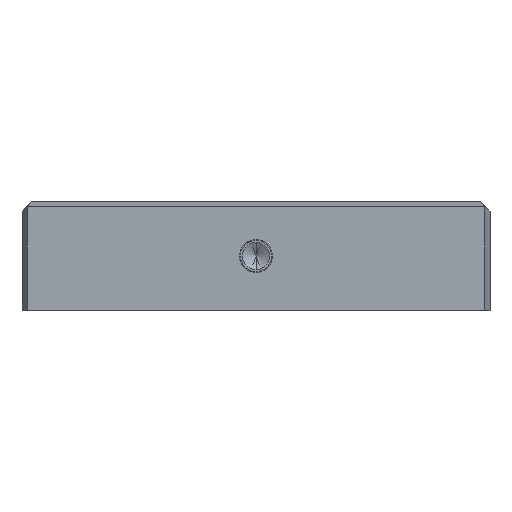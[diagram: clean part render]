
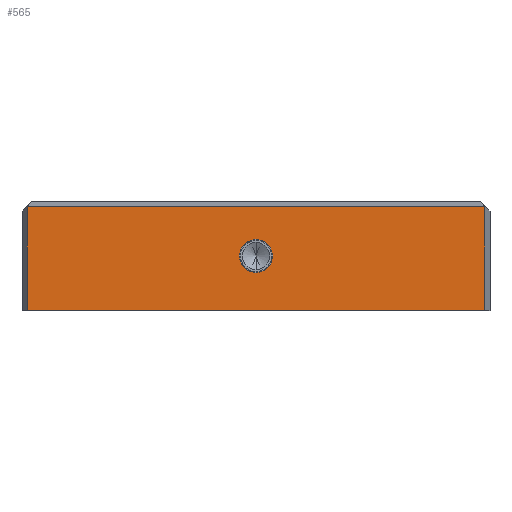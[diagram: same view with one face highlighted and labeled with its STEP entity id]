
A CAD part, front view. The second image highlights one B-rep face of the part: STEP entity #565.
In plain terms, the highlighted planar face has unit normal (0, -1, 0).
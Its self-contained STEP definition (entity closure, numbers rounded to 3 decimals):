
#457=CARTESIAN_POINT('Vertex',(0.,0.,-36.5)) ;
#461=CARTESIAN_POINT('Control Point',(8.5,0.,-28.)) ;
#462=CARTESIAN_POINT('Control Point',(8.5,0.,-30.67)) ;
#463=CARTESIAN_POINT('Control Point',(7.454,0.,-33.343)) ;
#464=CARTESIAN_POINT('Control Point',(5.343,0.,-35.454)) ;
#465=CARTESIAN_POINT('Control Point',(2.67,0.,-36.5)) ;
#466=CARTESIAN_POINT('Control Point',(0.,0.,-36.5)) ;
#467=CARTESIAN_POINT('Vertex',(8.5,0.,-28.)) ;
#470=CARTESIAN_POINT('Axis2P3D Location',(0.,0.,-28.)) ;
#474=CARTESIAN_POINT('Vertex',(0.,0.,-19.5)) ;
#496=CARTESIAN_POINT('Axis2P3D Location',(0.,0.,-28.)) ;
#500=CARTESIAN_POINT('Vertex',(-8.5,0.,-28.)) ;
#504=CARTESIAN_POINT('Control Point',(0.,0.,-36.5)) ;
#505=CARTESIAN_POINT('Control Point',(-2.67,0.,-36.5)) ;
#506=CARTESIAN_POINT('Control Point',(-5.343,0.,-35.454)) ;
#507=CARTESIAN_POINT('Control Point',(-7.454,0.,-33.343)) ;
#508=CARTESIAN_POINT('Control Point',(-8.5,0.,-30.67)) ;
#509=CARTESIAN_POINT('Control Point',(-8.5,0.,-28.)) ;
#520=CARTESIAN_POINT('Axis2P3D Location',(-117.321,0.,-56.)) ;
#525=CARTESIAN_POINT('Line Origine',(117.321,0.,-29.34)) ;
#529=CARTESIAN_POINT('Vertex',(117.321,0.,-56.)) ;
#531=CARTESIAN_POINT('Vertex',(117.321,0.,-2.679)) ;
#534=CARTESIAN_POINT('Line Origine',(0.,0.,-2.679)) ;
#538=CARTESIAN_POINT('Vertex',(-117.321,0.,-2.679)) ;
#541=CARTESIAN_POINT('Line Origine',(-117.321,0.,-29.34)) ;
#545=CARTESIAN_POINT('Vertex',(-117.321,0.,-56.)) ;
#548=CARTESIAN_POINT('Line Origine',(0.,0.,-56.)) ;
#471=DIRECTION('Axis2P3D Direction',(0.,-1.,0.)) ;
#497=DIRECTION('Axis2P3D Direction',(0.,-1.,0.)) ;
#521=DIRECTION('Axis2P3D Direction',(0.,-1.,0.)) ;
#522=DIRECTION('Axis2P3D XDirection',(0.,0.,-1.)) ;
#526=DIRECTION('Vector Direction',(0.,0.,1.)) ;
#535=DIRECTION('Vector Direction',(-1.,0.,0.)) ;
#542=DIRECTION('Vector Direction',(0.,0.,1.)) ;
#549=DIRECTION('Vector Direction',(1.,0.,0.)) ;
#472=AXIS2_PLACEMENT_3D('Circle Axis2P3D',#470,#471,$) ;
#498=AXIS2_PLACEMENT_3D('Circle Axis2P3D',#496,#497,$) ;
#523=AXIS2_PLACEMENT_3D('Plane Axis2P3D',#520,#521,#522) ;
#554=ORIENTED_EDGE('',*,*,#533,.T.) ;
#555=ORIENTED_EDGE('',*,*,#540,.T.) ;
#556=ORIENTED_EDGE('',*,*,#547,.F.) ;
#557=ORIENTED_EDGE('',*,*,#552,.T.) ;
#560=ORIENTED_EDGE('',*,*,#469,.T.) ;
#561=ORIENTED_EDGE('',*,*,#510,.T.) ;
#562=ORIENTED_EDGE('',*,*,#502,.T.) ;
#563=ORIENTED_EDGE('',*,*,#476,.T.) ;
#564=FACE_BOUND('',#559,.T.) ;
#527=VECTOR('Line Direction',#526,1.) ;
#536=VECTOR('Line Direction',#535,1.) ;
#543=VECTOR('Line Direction',#542,1.) ;
#550=VECTOR('Line Direction',#549,1.) ;
#565=ADVANCED_FACE('A927-240X630X56',(#558,#564),#524,.T.) ;
#460=B_SPLINE_CURVE_WITH_KNOTS('',5,(#461,#462,#463,#464,#465,#466),.UNSPECIFIED.,.F.,.U.,(6,6),(-6.676,6.676),.UNSPECIFIED.) ;
#503=B_SPLINE_CURVE_WITH_KNOTS('',5,(#504,#505,#506,#507,#508,#509),.UNSPECIFIED.,.F.,.U.,(6,6),(-6.676,6.676),.UNSPECIFIED.) ;
#473=CIRCLE('generated circle',#472,8.5) ;
#499=CIRCLE('generated circle',#498,8.5) ;
#469=EDGE_CURVE('',#468,#458,#460,.T.) ;
#476=EDGE_CURVE('',#475,#468,#473,.F.) ;
#502=EDGE_CURVE('',#501,#475,#499,.F.) ;
#510=EDGE_CURVE('',#458,#501,#503,.T.) ;
#533=EDGE_CURVE('',#530,#532,#528,.T.) ;
#540=EDGE_CURVE('',#532,#539,#537,.T.) ;
#547=EDGE_CURVE('',#546,#539,#544,.T.) ;
#552=EDGE_CURVE('',#546,#530,#551,.T.) ;
#553=EDGE_LOOP('',(#554,#555,#556,#557)) ;
#559=EDGE_LOOP('',(#560,#561,#562,#563)) ;
#558=FACE_OUTER_BOUND('',#553,.T.) ;
#528=LINE('Line',#525,#527) ;
#537=LINE('Line',#534,#536) ;
#544=LINE('Line',#541,#543) ;
#551=LINE('Line',#548,#550) ;
#524=PLANE('Plane',#523) ;
#458=VERTEX_POINT('',#457) ;
#468=VERTEX_POINT('',#467) ;
#475=VERTEX_POINT('',#474) ;
#501=VERTEX_POINT('',#500) ;
#530=VERTEX_POINT('',#529) ;
#532=VERTEX_POINT('',#531) ;
#539=VERTEX_POINT('',#538) ;
#546=VERTEX_POINT('',#545) ;
